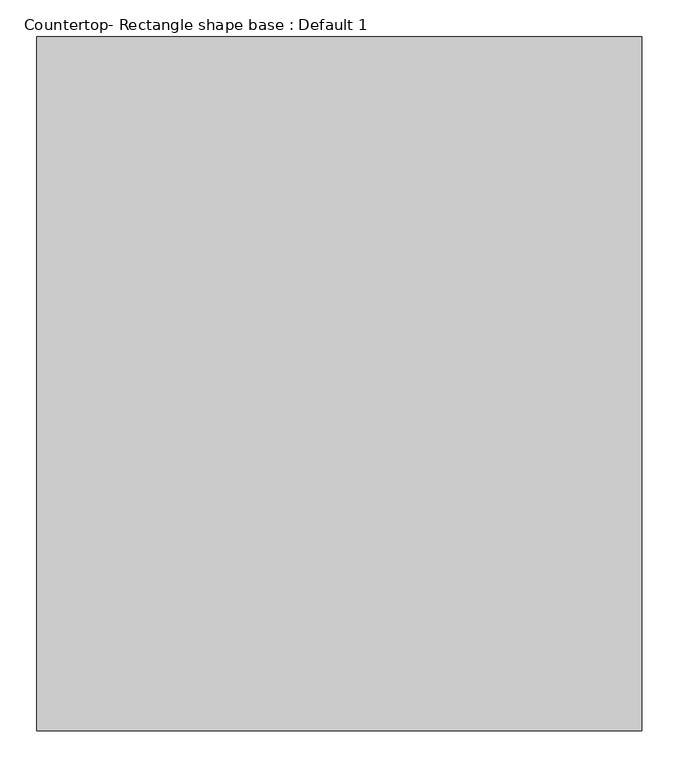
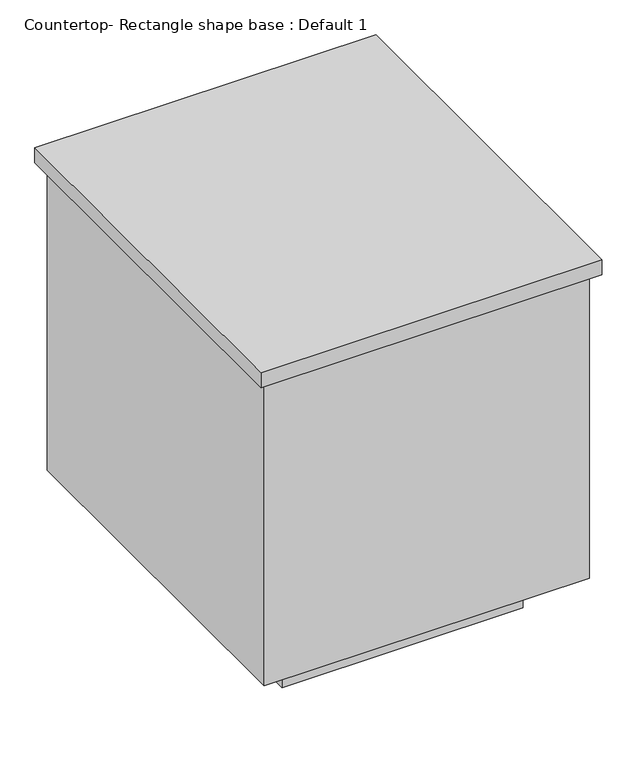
"""IFC4 building model written with IfcOpenShell, lengths in millimetres: proxy geometry, Countertop- Rectangle shape base : Default 1."""

from ifc_helpers import new_model, si_unit, frame, origin, origin_with_axes, place, context, project, spatial, polyline, outline, extrude, source, transform, mapped, element, save


def countertop_rectangle_shape_base_default_1_17d03478(model_context):
    return source(origin(), model_context, "Body", "SweptSolid", [
        extrude(outline(polyline([(352.425, -88.9), (352.425, 850.9), (1171.575, 850.9), (1171.575, -88.9), (352.425, -88.9)])), frame((0.0, 0.0, 876.3), z_axis=(0.0, 0.0, 1.0), x_axis=(1.0, 0.0, 0.0)), (0.0, 0.0, 1.0), 38.1),
        extrude(outline(polyline([(1152.525, 831.85), (1152.525, -69.85), (371.475, -69.85), (371.475, 831.85), (1152.525, 831.85)])), frame((0.0, 0.0, 101.6), z_axis=(0.0, 0.0, 1.0), x_axis=(1.0, 0.0, 0.0)), (0.0, 0.0, 1.0), 774.7),
        extrude(outline(polyline([(1050.925, 730.25), (1050.925, 31.75), (473.075, 31.75), (473.075, 730.25), (1050.925, 730.25)])), origin_with_axes(), (0.0, 0.0, 1.0), 101.6),
    ])


if __name__ == "__main__":
    model = new_model("IFC4")
    model_context = context("Model", 3, world=origin())
    ifc_project = project(units=[si_unit("LENGTHUNIT", "METRE", prefix="MILLI")], contexts=[model_context])
    site = spatial("IfcSite", under=ifc_project)
    building = spatial("IfcBuilding", under=site)
    placement = place(None, origin())
    countertop_rectangle_shape_base_default_1_shape = countertop_rectangle_shape_base_default_1_17d03478(model_context)
    element("IfcBuildingElementProxy", 1, Name="Countertop- Rectangle shape base : Default 1", ObjectType="Countertop- Rectangle shape base : Default 1", at=placement, inside=building, context=model_context, shape_type="MappedRepresentation", body=[
        mapped(countertop_rectangle_shape_base_default_1_shape, transform((0.0, 0.0, 0.0), x_axis=(1.0, 0.0, 0.0), y_axis=(0.0, 1.0, 0.0), z_axis=(0.0, 0.0, 1.0))),
    ])
    save(model, "model.ifc")
